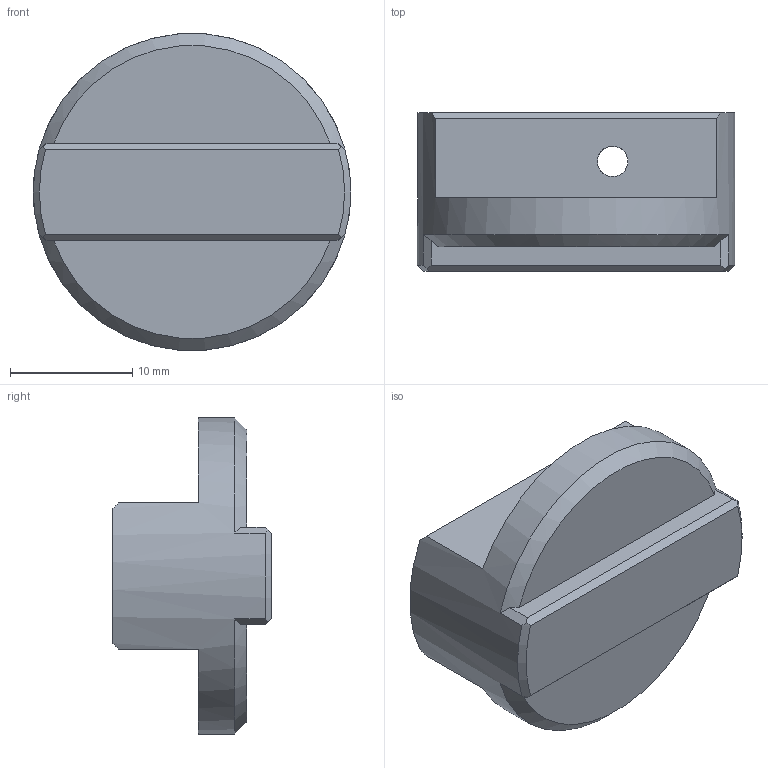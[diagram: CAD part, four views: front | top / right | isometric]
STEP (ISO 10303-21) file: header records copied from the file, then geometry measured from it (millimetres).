
FILE_DESCRIPTION(/* description */ (''),/* implementation_level */ '2;1');
FILE_NAME(/* name */ '',/* time_stamp */ '2025-02-05T13:47:09+09:00',/* author */ ('jhkim'),/* organization */ (''),/* preprocessor_version */ 'ST-DEVELOPER v20',/* originating_system */ 'Autodesk Inventor 2025',/* authorisation */ '');
FILE_SCHEMA (('AUTOMOTIVE_DESIGN { 1 0 10303 214 3 1 1 }'));
Length unit declared in the file: millimetre
Products named in the file (1): 조
Bounding box: 26 x 13 x 25.91 mm (x, y, z)
Volume: 4265.6 mm3; surface area: 2170.4 mm2
Topology: 1 solids, 1 shells, 27 faces, 79 edges, 52 vertices
Faces by surface type: plane 18, cone 6, cylinder 3
Full cylindrical faces by diameter (mm): 2.5 x1, 6 x1, 26 x1
Entity records: 966 total; most frequent: CARTESIAN_POINT 234, ORIENTED_EDGE 156, DIRECTION 137, EDGE_CURVE 78, VERTEX_POINT 52, AXIS2_PLACEMENT_3D 51, LINE 35, VECTOR 35
